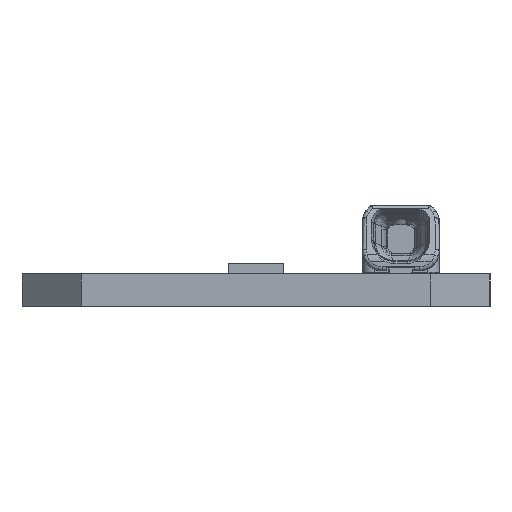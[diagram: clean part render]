
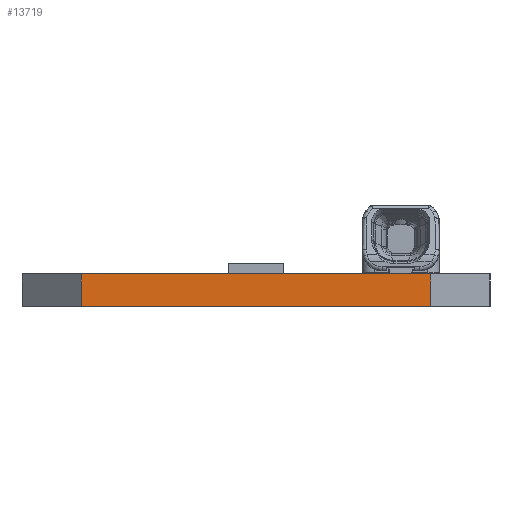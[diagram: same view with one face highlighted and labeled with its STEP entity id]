
A CAD part, left-side view. The second image highlights one B-rep face of the part: STEP entity #13719.
In plain terms, the highlighted planar face has unit normal (-1, 0, 0).
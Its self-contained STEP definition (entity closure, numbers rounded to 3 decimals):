
#620=DIRECTION('',(0.,0.,1.));
#621=VECTOR('',#620,1.65);
#622=CARTESIAN_POINT('',(-69.5,-8.8,0.));
#623=LINE('',#622,#621);
#627=DIRECTION('',(0.,1.,0.));
#628=VECTOR('',#627,17.6);
#629=CARTESIAN_POINT('',(-69.5,-8.8,1.65));
#630=LINE('',#629,#628);
#718=DIRECTION('',(0.,1.,0.));
#719=VECTOR('',#718,17.6);
#720=CARTESIAN_POINT('',(-69.5,-8.8,0.));
#721=LINE('',#720,#719);
#1061=DIRECTION('',(0.,0.,1.));
#1062=VECTOR('',#1061,1.65);
#1063=CARTESIAN_POINT('',(-69.5,8.8,0.));
#1064=LINE('',#1063,#1062);
#11928=CARTESIAN_POINT('',(-69.5,8.8,0.));
#11929=CARTESIAN_POINT('',(-69.5,8.8,1.65));
#11930=VERTEX_POINT('',#11928);
#11931=VERTEX_POINT('',#11929);
#11932=CARTESIAN_POINT('',(-69.5,-8.8,1.65));
#11934=VERTEX_POINT('',#11932);
#12000=CARTESIAN_POINT('',(-69.5,-8.8,0.));
#12001=VERTEX_POINT('',#12000);
#13705=CARTESIAN_POINT('',(-69.5,8.8,1.65));
#13706=DIRECTION('',(-1.,0.,0.));
#13707=DIRECTION('',(0.,0.,1.));
#13708=AXIS2_PLACEMENT_3D('',#13705,#13706,#13707);
#13709=PLANE('',#13708);
#13711=ORIENTED_EDGE('',*,*,#13710,.F.);
#13713=ORIENTED_EDGE('',*,*,#13712,.T.);
#13715=ORIENTED_EDGE('',*,*,#13714,.T.);
#13716=ORIENTED_EDGE('',*,*,#13478,.F.);
#13717=EDGE_LOOP('',(#13711,#13713,#13715,#13716));
#13718=FACE_OUTER_BOUND('',#13717,.F.);
#13478=EDGE_CURVE('',#11934,#11931,#630,.T.);
#13710=EDGE_CURVE('',#12001,#11934,#623,.T.);
#13712=EDGE_CURVE('',#12001,#11930,#721,.T.);
#13714=EDGE_CURVE('',#11930,#11931,#1064,.T.);
#13719=ADVANCED_FACE('',(#13718),#13709,.T.);
